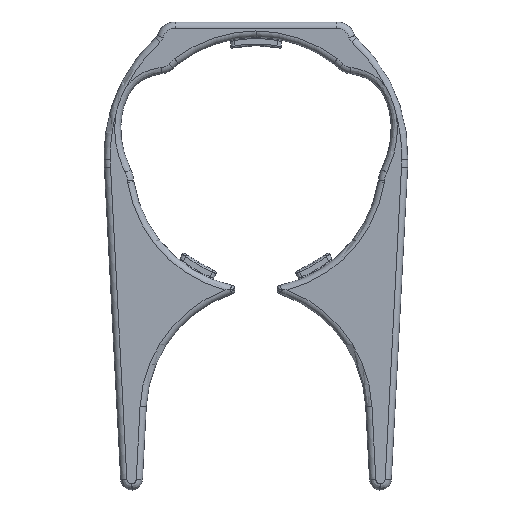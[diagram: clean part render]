
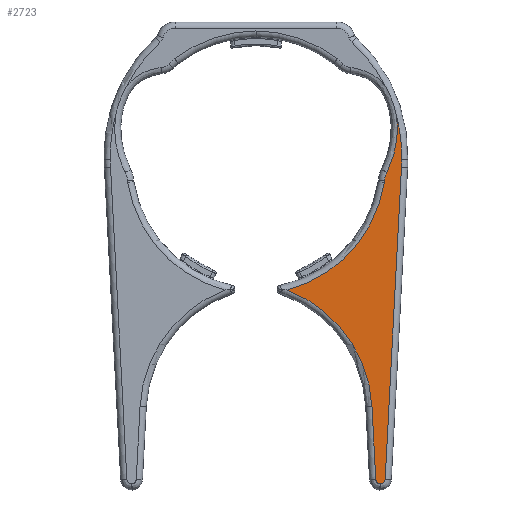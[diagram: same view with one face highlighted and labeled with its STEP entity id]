
A CAD part, top view. The second image highlights one B-rep face of the part: STEP entity #2723.
In plain terms, the highlighted planar face has unit normal (0, 0, 1).
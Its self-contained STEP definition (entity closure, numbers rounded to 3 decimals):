
#54=PLANE('',#3068);
#128=LINE('',#5767,#223);
#140=LINE('',#5846,#235);
#204=LINE('',#7355,#299);
#205=LINE('',#7357,#300);
#223=VECTOR('',#3273,10.);
#235=VECTOR('',#3329,10.);
#299=VECTOR('',#3763,10.);
#300=VECTOR('',#3766,10.);
#504=FACE_OUTER_BOUND('',#686,.T.);
#686=EDGE_LOOP('',(#2419,#2420,#2421,#2422,#2423,#2424,#2425,#2426,#2427,
#2428,#2429,#2430));
#815=B_SPLINE_CURVE_WITH_KNOTS('',3,(#7550,#7551,#7552,#7553,#7554,#7555,
#7556),.UNSPECIFIED.,.F.,.F.,(4,1,2,4),(-2.109,-1.749,
-1.389,-1.165),.UNSPECIFIED.);
#877=CIRCLE('',#2829,0.75);
#896=CIRCLE('',#2855,0.75);
#932=CIRCLE('',#2916,21.523);
#999=CIRCLE('',#3042,25.);
#1002=CIRCLE('',#3048,21.423);
#1016=CIRCLE('',#3069,3.905);
#1017=CIRCLE('',#3070,3.905);
#1095=VERTEX_POINT('',#5735);
#1096=VERTEX_POINT('',#5737);
#1103=VERTEX_POINT('',#5765);
#1117=VERTEX_POINT('',#5825);
#1120=VERTEX_POINT('',#5830);
#1123=VERTEX_POINT('',#5845);
#1177=VERTEX_POINT('',#6443);
#1178=VERTEX_POINT('',#6450);
#1243=VERTEX_POINT('',#7303);
#1244=VERTEX_POINT('',#7350);
#1250=VERTEX_POINT('',#7512);
#1261=VERTEX_POINT('',#7592);
#1377=EDGE_CURVE('',#1095,#1096,#877,.T.);
#1388=EDGE_CURVE('',#1103,#1095,#128,.T.);
#1409=EDGE_CURVE('',#1120,#1117,#896,.T.);
#1416=EDGE_CURVE('',#1117,#1123,#140,.T.);
#1505=EDGE_CURVE('',#1177,#1178,#932,.T.);
#1634=EDGE_CURVE('',#1243,#1244,#999,.T.);
#1637=EDGE_CURVE('',#1244,#1103,#204,.T.);
#1638=EDGE_CURVE('',#1096,#1120,#205,.T.);
#1639=EDGE_CURVE('',#1123,#1177,#1002,.T.);
#1651=EDGE_CURVE('',#1250,#1243,#815,.T.);
#1664=EDGE_CURVE('',#1261,#1250,#1016,.T.);
#1665=EDGE_CURVE('',#1178,#1261,#1017,.T.);
#2419=ORIENTED_EDGE('',*,*,#1377,.F.);
#2420=ORIENTED_EDGE('',*,*,#1388,.F.);
#2421=ORIENTED_EDGE('',*,*,#1637,.F.);
#2422=ORIENTED_EDGE('',*,*,#1634,.F.);
#2423=ORIENTED_EDGE('',*,*,#1651,.F.);
#2424=ORIENTED_EDGE('',*,*,#1664,.F.);
#2425=ORIENTED_EDGE('',*,*,#1665,.F.);
#2426=ORIENTED_EDGE('',*,*,#1505,.F.);
#2427=ORIENTED_EDGE('',*,*,#1639,.F.);
#2428=ORIENTED_EDGE('',*,*,#1416,.F.);
#2429=ORIENTED_EDGE('',*,*,#1409,.F.);
#2430=ORIENTED_EDGE('',*,*,#1638,.F.);
#2723=ADVANCED_FACE('',(#504),#54,.T.);
#2829=AXIS2_PLACEMENT_3D('',#5738,#3250,#3251);
#2855=AXIS2_PLACEMENT_3D('',#5832,#3312,#3313);
#2916=AXIS2_PLACEMENT_3D('',#6451,#3463,#3464);
#3042=AXIS2_PLACEMENT_3D('',#7351,#3755,#3756);
#3048=AXIS2_PLACEMENT_3D('',#7359,#3769,#3770);
#3068=AXIS2_PLACEMENT_3D('',#7591,#3813,#3814);
#3069=AXIS2_PLACEMENT_3D('',#7593,#3815,#3816);
#3070=AXIS2_PLACEMENT_3D('',#7594,#3817,#3818);
#3250=DIRECTION('center_axis',(0.,0.,-1.));
#3251=DIRECTION('ref_axis',(0.669,-0.743,0.));
#3273=DIRECTION('',(-0.052,-0.999,0.));
#3312=DIRECTION('center_axis',(0.,0.,-1.));
#3313=DIRECTION('ref_axis',(-0.707,-0.707,0.));
#3329=DIRECTION('',(-0.052,0.999,0.));
#3463=DIRECTION('center_axis',(0.,0.,1.));
#3464=DIRECTION('ref_axis',(0.72,-0.694,0.));
#3755=DIRECTION('center_axis',(0.,0.,-1.));
#3756=DIRECTION('ref_axis',(0.921,0.389,0.));
#3763=DIRECTION('',(-0.026,-1.,0.));
#3766=DIRECTION('',(-0.999,0.052,0.));
#3769=DIRECTION('center_axis',(0.,0.,1.));
#3770=DIRECTION('ref_axis',(0.804,0.594,0.));
#3813=DIRECTION('center_axis',(0.,0.,1.));
#3814=DIRECTION('ref_axis',(-0.052,-0.999,0.));
#3815=DIRECTION('center_axis',(0.,0.,-1.));
#3816=DIRECTION('ref_axis',(-0.966,0.257,0.));
#3817=DIRECTION('center_axis',(0.,0.,-1.));
#3818=DIRECTION('ref_axis',(-0.983,0.185,0.));
#5735=CARTESIAN_POINT('',(20.916,-31.874,-10.28));
#5737=CARTESIAN_POINT('',(20.128,-32.584,-10.28));
#5738=CARTESIAN_POINT('Origin',(20.167,-31.835,-10.28));
#5765=CARTESIAN_POINT('',(23.564,18.651,-10.28));
#5767=CARTESIAN_POINT('',(23.768,22.551,-10.28));
#5825=CARTESIAN_POINT('',(19.398,-31.873,-10.28));
#5830=CARTESIAN_POINT('',(20.108,-32.583,-10.28));
#5832=CARTESIAN_POINT('Origin',(20.147,-31.834,-10.28));
#5845=CARTESIAN_POINT('',(18.784,-20.08,-10.28));
#5846=CARTESIAN_POINT('',(17.135,11.608,-10.28));
#6443=CARTESIAN_POINT('',(5.08,-1.198,-10.28));
#6450=CARTESIAN_POINT('',(20.779,16.187,-10.28));
#6451=CARTESIAN_POINT('Origin',(-0.472,19.596,-10.28));
#7303=CARTESIAN_POINT('',(22.753,27.066,-10.28));
#7350=CARTESIAN_POINT('',(23.598,19.935,-10.28));
#7351=CARTESIAN_POINT('Origin',(-1.394,20.589,-10.28));
#7355=CARTESIAN_POINT('',(23.683,23.18,-10.28));
#7357=CARTESIAN_POINT('',(-3.09,-31.367,-10.28));
#7359=CARTESIAN_POINT('Origin',(-2.61,-21.193,-10.28));
#7512=CARTESIAN_POINT('',(21.201,17.894,-10.28));
#7550=CARTESIAN_POINT('Ctrl Pts',(21.201,17.894,-10.28));
#7551=CARTESIAN_POINT('Ctrl Pts',(21.717,18.977,-10.28));
#7552=CARTESIAN_POINT('Ctrl Pts',(22.586,21.228,-10.28));
#7553=CARTESIAN_POINT('Ctrl Pts',(22.891,23.628,-10.28));
#7554=CARTESIAN_POINT('Ctrl Pts',(22.912,25.576,-10.28));
#7555=CARTESIAN_POINT('Ctrl Pts',(22.863,26.326,-10.28));
#7556=CARTESIAN_POINT('Ctrl Pts',(22.752,27.066,-10.28));
#7591=CARTESIAN_POINT('Origin',(0.783,42.532,-10.28));
#7592=CARTESIAN_POINT('',(20.834,16.464,-10.28));
#7593=CARTESIAN_POINT('Origin',(24.731,16.226,-10.28));
#7594=CARTESIAN_POINT('Origin',(24.635,15.569,-10.28));
